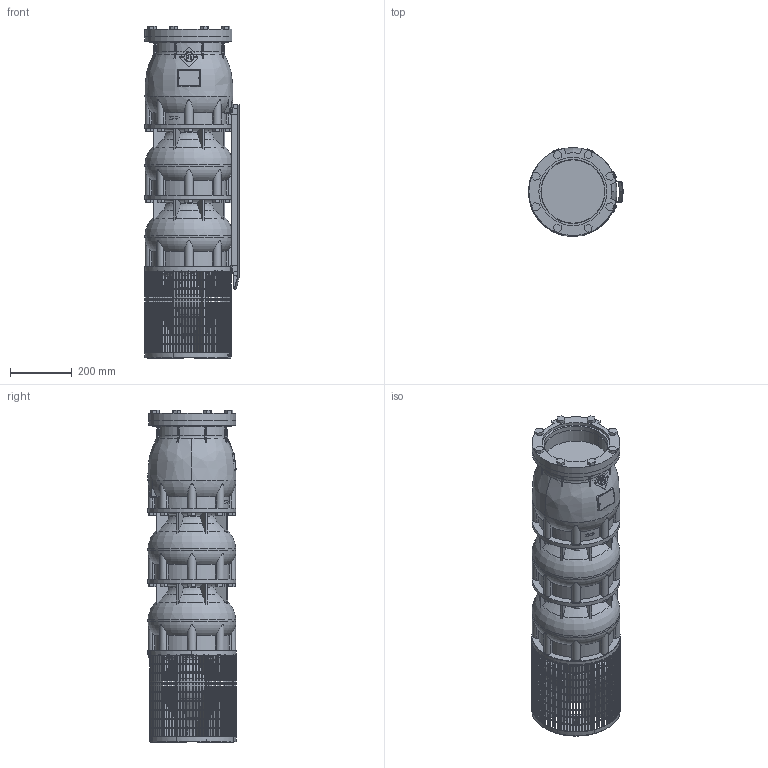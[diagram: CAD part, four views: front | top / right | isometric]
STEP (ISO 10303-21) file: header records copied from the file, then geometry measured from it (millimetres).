
FILE_DESCRIPTION(/* description */ ('-'),/* implementation_level */ '2;1');
FILE_NAME(/* name */ 'VSI454-2-2F_WF_M8-50_DLE',/* time_stamp */ '2026-01-21T14:09:47+01:00',/* author */ ('Simonelli M.'),/* organization */ ('Franklin Electric Srl'),/* preprocessor_version */ 'ST-DEVELOPER v18.102',/* originating_system */ 'Solid Edge',/* authorisation */ 'Unknown');
FILE_SCHEMA (('AUTOMOTIVE_DESIGN {1 0 10303 214 3 1 1}'));
Products named in the file (12): VSI454-2-2F_WF_M8-50_DLE; VSI344-454_testata; VSI344-454_supporto; VSI344-454_filtro_A; VSI344-454_filtro_B; VSI344-454_terminale_top_copricavo_basso; VSI344-454_terminale_bottom_copricavo_basso; LOW 454-2; VSI454_diffusore; M5X8_UNI7687; VSI184-254_giunto_10×8; VSI344-454_flangia_testata
Assembly tree (21 placements, depth 2):
  VSI454-2-2F_WF_M8-50_DLE
    VSI344-454_testata
    VSI344-454_supporto
    VSI344-454_filtro_A
    VSI344-454_filtro_B
    VSI344-454_terminale_top_copricavo_basso
    VSI344-454_terminale_bottom_copricavo_basso
    LOW 454-2
    VSI454_diffusore  x2
    M5X8_UNI7687  x10
    VSI184-254_giunto_10×8
    VSI344-454_flangia_testata
Bounding box: 306.94 x 286 x 1075 mm (x, y, z)
Volume: 40697722.1 mm3; surface area: 2383969.2 mm2
Topology: 86 solids, 86 shells, 4085 faces, 11513 edges, 7647 vertices
Faces by surface type: plane 3313, cylinder 497, torus 173, cone 77, bspline 15, sphere 10
Full cylindrical faces by diameter (mm): 5 x10, 16 x8, 35 x1, 65 x1, 69 x1, 150 x1, 207 x1, 220.5 x1, 284.507 x2, 285 x2
Entity records: 127582 total; most frequent: CARTESIAN_POINT 28627, ORIENTED_EDGE 20792, DIRECTION 19890, EDGE_CURVE 10396, VERTEX_POINT 6933, AXIS2_PLACEMENT_3D 6716, LINE 6458, VECTOR 6458
